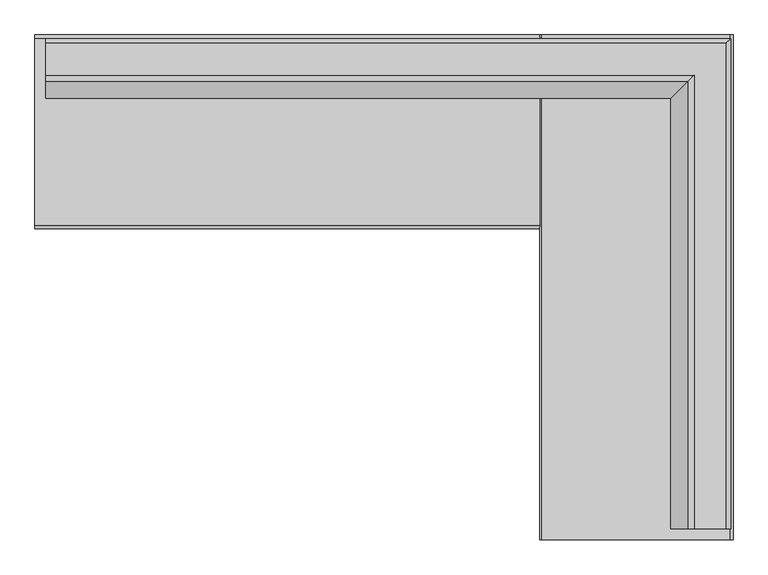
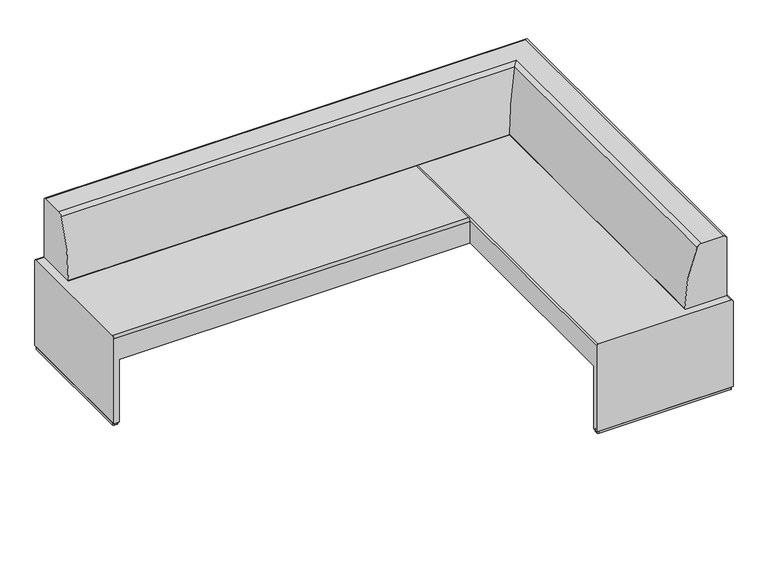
"""IFC4 building model written with IfcOpenShell, lengths in millimetres: furniture geometry, Coalesse_AM_Seating_Bench_Together_RightCorner : 1.5in Back Offset - 69.75D x 96.5W."""

from ifc_helpers import new_model, si_unit, point, frame, frame_2d, origin, origin_with_axes, place, context, project, spatial, polyline, circle_curve, ellipse_curve, trimmed, segment, composite_curve, outline, extrude, source, transform, mapped, element, save
from ifc_brep_helpers import plane_surface, cylinder_surface, advanced_brep


def furniture_5f205269(model_context):
    return source(origin(), model_context, "Body", "SolidModel", [
        advanced_brep(
        [(774.5287475, 3679.1834745, 461.0687949), (764.3687475, 3679.1834745, 471.2287949), (103.5774354, 3679.1834745, 471.2287949), (95.2070699, 3679.1834745, 462.8584293), (95.2070699, 3679.1834745, 12.7976677), (774.5287475, 3679.1834745, 12.7976677), (95.2070699, 5450.8334745, 343.3718099), (95.2070699, 5450.8334745, 462.8584293), (103.5774354, 5450.8334745, 471.2287949), (764.3687475, 5450.8334745, 471.2287949), (774.5287475, 5450.8334745, 461.0687949), (774.5287475, 5450.8334745, 343.3718099), (774.5287475, 3705.1751879, 343.3718099), (432.8174347, 3749.5841192, 343.3718099), (95.2070699, 3705.1751879, 343.3718099), (774.5287475, 3705.1751879, 12.7976677), (95.2070699, 3705.1751879, 12.7976677), (432.8174347, 3749.5841192, 12.7976677)],
        [
            (0, 1, circle_curve(frame((764.3687475, 3679.1834745, 461.0687949), z_axis=(0.0, -1.0, 0.0), x_axis=(-1.0, 0.0, 0.0)), 10.16)),
            (1, 2),
            (2, 3, circle_curve(frame((103.5774354, 3679.1834745, 462.8584293), z_axis=(0.0, -1.0, 0.0), x_axis=(-1.0, 0.0, 0.0)), 8.3703656)),
            (3, 4),
            (4, 5),
            (5, 0),
            (6, 7),
            (7, 8, circle_curve(frame((103.5774354, 5450.8334745, 462.8584293), z_axis=(0.0, 1.0, 0.0), x_axis=(-1.0, 0.0, 0.0)), 8.3703656)),
            (8, 9),
            (9, 10, circle_curve(frame((764.3687475, 5450.8334745, 461.0687949), z_axis=(0.0, 1.0, 0.0), x_axis=(-1.0, 0.0, 0.0)), 10.16)),
            (10, 11),
            (11, 6),
            (11, 12),
            (12, 13),
            (13, 14),
            (14, 6),
            (5, 15),
            (15, 12),
            (10, 0),
            (9, 1),
            (8, 2),
            (7, 3),
            (14, 16),
            (16, 4),
            (17, 15),
            (16, 17),
            (13, 17),
        ],
        [
            plane_surface(frame((733.0421326, 3679.1834745, 343.3718099), z_axis=(0.0, -1.0, 0.0), x_axis=(1.0, 0.0, 0.0))),
            plane_surface(frame((733.0421326, 5450.8334745, 343.3718099), z_axis=(0.0, 1.0, 0.0), x_axis=(-1.0, 0.0, 0.0))),
            plane_surface(frame((95.2070699, 3679.1834745, 343.3718099), z_axis=(0.0, 0.0, -1.0), x_axis=(0.0, 1.0, 0.0))),
            plane_surface(frame((774.5287475, 3679.1834745, 343.3718099), z_axis=(1.0, 0.0, 0.0), x_axis=(0.0, 1.0, 0.0))),
            cylinder_surface(frame((764.3687475, 5450.8334745, 461.0687949), z_axis=(0.0, -1.0, 0.0), x_axis=(-1.0, 0.0, 0.0)), 10.16),
            plane_surface(frame((764.3687475, 3679.1834745, 471.2287949), z_axis=(0.0, 0.0, 1.0), x_axis=(0.0, 1.0, 0.0))),
            cylinder_surface(frame((103.5774354, 5450.8334745, 462.8584293), z_axis=(0.0, -1.0, 0.0), x_axis=(-1.0, 0.0, 0.0)), 8.3703656),
            plane_surface(frame((95.2070699, 3679.1834745, 462.8584293), z_axis=(-1.0, 0.0, 0.0), x_axis=(0.0, 1.0, 0.0))),
            plane_surface(frame((432.8174347, 3749.5841192, 12.7976677), z_axis=(0.0, 0.0, -1.0), x_axis=(0.9914594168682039, 0.13041558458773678, 0.0))),
            plane_surface(frame((432.8174347, 3749.5841192, 343.3718099), z_axis=(-0.13041558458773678, 0.9914594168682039, 0.0), x_axis=(0.0, 0.0, -1.0))),
            plane_surface(frame((774.5287475, 3705.1751879, 343.3718099), z_axis=(0.12887659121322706, 0.991660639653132, 0.0), x_axis=(0.0, 0.0, -1.0))),
        ],
        [
            (0, [[1, 2, 3, 4, 5, 6]]),
            (1, [[7, 8, 9, 10, 11, 12]]),
            (2, [[-12, 13, 14, 15, 16]]),
            (3, [[-6, 17, 18, -13, -11, 19]]),
            (4, [[-1, -19, -10, 20]]),
            (5, [[-2, -20, -9, 21]]),
            (6, [[-3, -21, -8, 22]]),
            (7, [[-4, -22, -7, -16, 23, 24]]),
            (8, [[25, -17, -5, -24, 26]]),
            (9, [[-26, -23, -15, 27]]),
            (10, [[-25, -27, -14, -18]]),
        ],
    ),
        advanced_brep(
        [(-1676.5712525, 4783.2670813, 471.2287949), (-1676.5712525, 5438.3536785, 471.2287949), (-1676.5712525, 5451.0536785, 458.5287949), (-1676.5712525, 5451.0536785, 12.7976677), (-1676.5712525, 4770.5670813, 12.7976677), (-1676.5712525, 4770.5670813, 458.5287949), (95.2070699, 4783.2670813, 471.2287949), (95.2070699, 4770.5670813, 458.5287949), (95.2070699, 4770.5670813, 343.3718099), (95.2070699, 5451.0536785, 343.3718099), (95.2070699, 5451.0536785, 458.5287949), (95.2070699, 5438.3536785, 471.2287949), (-1650.7015245, 5451.0536785, 343.3718099), (-1650.7025858, 5451.0536785, 12.7976677), (-1650.3955542, 4770.5670813, 343.3718099), (-1606.0629721, 5108.4198031, 343.3718099), (-1650.3944726, 4770.5670813, 12.7976677), (-1606.0629721, 5108.4198031, 12.7976677)],
        [
            (0, 1),
            (1, 2, circle_curve(frame((-1676.5712525, 5438.3536785, 458.5287949), z_axis=(-1.0, 0.0, 0.0), x_axis=(0.0, 1.0, 0.0)), 12.7)),
            (2, 3),
            (3, 4),
            (4, 5),
            (5, 0, circle_curve(frame((-1676.5712525, 4783.2670813, 458.5287949), z_axis=(-1.0, 0.0, 0.0), x_axis=(0.0, 1.0, 0.0)), 12.7)),
            (6, 7, circle_curve(frame((95.2070699, 4783.2670813, 458.5287949), z_axis=(1.0, 0.0, 0.0), x_axis=(0.0, 1.0, 0.0)), 12.7)),
            (7, 8),
            (8, 9),
            (9, 10),
            (10, 11, circle_curve(frame((95.2070699, 5438.3536785, 458.5287949), z_axis=(1.0, 0.0, 0.0), x_axis=(0.0, 1.0, 0.0)), 12.7)),
            (11, 6),
            (0, 6),
            (11, 1),
            (10, 2),
            (9, 12),
            (12, 13),
            (13, 3),
            (8, 14),
            (14, 15),
            (15, 12),
            (4, 16),
            (16, 14),
            (7, 5),
            (17, 16),
            (13, 17),
            (15, 17),
        ],
        [
            plane_surface(frame((-1676.5712525, 5450.8334745, 471.2287949), z_axis=(-1.0, 0.0, 0.0), x_axis=(0.0, 1.0, 0.0))),
            plane_surface(frame((95.2070699, 5450.8334745, 471.2287949), z_axis=(1.0, 0.0, 0.0), x_axis=(0.0, -1.0, 0.0))),
            plane_surface(frame((-1676.5712525, 4783.2670813, 471.2287949), z_axis=(0.0, 0.0, 1.0), x_axis=(1.0, 0.0, 0.0))),
            cylinder_surface(frame((95.2070699, 5438.3536785, 458.5287949), z_axis=(-1.0, 0.0, 0.0), x_axis=(0.0, 1.0, 0.0)), 12.7),
            plane_surface(frame((-1676.5712525, 5451.0536785, 458.5287949), z_axis=(0.0, 1.0, 0.0), x_axis=(1.0, 0.0, 0.0))),
            plane_surface(frame((-1676.5712525, 5451.0536785, 343.3718099), z_axis=(0.0, 0.0, -1.0), x_axis=(1.0, 0.0, 0.0))),
            plane_surface(frame((-1676.5712525, 4770.5670813, 343.3718099), z_axis=(0.0, -1.0, 0.0), x_axis=(1.0, 0.0, 0.0))),
            cylinder_surface(frame((95.2070699, 4783.2670813, 458.5287949), z_axis=(-1.0, 0.0, 0.0), x_axis=(0.0, 1.0, 0.0)), 12.7),
            plane_surface(frame((-1650.7025858, 5451.0618248, 12.7976677), z_axis=(0.0, 0.0, -1.0), x_axis=(0.12918886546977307, -0.9916200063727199, 0.0))),
            plane_surface(frame((-1606.0629721, 5108.4198031, 343.3718099), z_axis=(0.9916200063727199, 0.12918886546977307, 0.0), x_axis=(0.0, 0.0, -1.0))),
            plane_surface(frame((-1650.3944726, 4770.5753245, 343.3718099), z_axis=(0.9915004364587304, -0.1301033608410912, 0.0), x_axis=(0.0, 0.0, -1.0))),
        ],
        [
            (0, [[1, 2, 3, 4, 5, 6]]),
            (1, [[7, 8, 9, 10, 11, 12]]),
            (2, [[-1, 13, -12, 14]]),
            (3, [[-2, -14, -11, 15]]),
            (4, [[-3, -15, -10, 16, 17, 18]]),
            (5, [[-9, 19, 20, 21, -16]]),
            (6, [[-5, 22, 23, -19, -8, 24]]),
            (7, [[-6, -24, -7, -13]]),
            (8, [[25, -22, -4, -18, 26]]),
            (9, [[-26, -17, -21, 27]]),
            (10, [[-25, -27, -20, -23]]),
        ],
    ),
        extrude(outline(composite_curve([segment(polyline([(-1606.5189643, 5113.2843855), (-1651.5193515, 4782.1665875)]), True, "CONTINUOUS"), segment(trimmed(circle_curve(frame_2d((-1657.8115092, 4783.0217198)), 6.35), [point((-1651.5193515, 4782.1665875))], [point((-1657.8166959, 4776.6717219))], False, "CARTESIAN"), True, "CONTINUOUS"), segment(polyline([(-1657.8166959, 4776.6717219), (-1670.2739607, 4776.6818969)]), True, "CONTINUOUS"), segment(trimmed(circle_curve(frame_2d((-1670.268774, 4783.0318948)), 6.35), [point((-1670.2739607, 4776.6818969))], [point((-1676.6187719, 4783.0370815))], False, "CARTESIAN"), True, "CONTINUOUS"), segment(polyline([(-1676.6187719, 4783.0370815), (-1676.0832557, 5438.6681616)]), True, "CONTINUOUS"), segment(trimmed(circle_curve(frame_2d((-1669.7332578, 5438.6629749)), 6.35), [point((-1676.0832557, 5438.6681616))], [point((-1669.7280712, 5445.0129728))], False, "CARTESIAN"), True, "CONTINUOUS"), segment(polyline([(-1669.7280712, 5445.0129728), (-1657.2050538, 5445.0027441)]), True, "CONTINUOUS"), segment(trimmed(circle_curve(frame_2d((-1657.2107966, 5437.9717942)), 7.0309522), [point((-1657.2050538, 5445.0027441))], [point((-1650.2423843, 5438.9074858))], False, "CARTESIAN"), True, "CONTINUOUS"), segment(polyline([(-1650.2423843, 5438.9074858), (-1606.5189643, 5113.2843855)]), True, "CONTINUOUS")], self_intersect=False)), origin_with_axes(), (0.0, 0.0, 1.0), 12.7976677),
        extrude(outline(composite_curve([segment(polyline([(437.4499039, 5381.2236386), (106.2954602, 5425.9535555)]), True, "CONTINUOUS"), segment(trimmed(circle_curve(frame_2d((107.1454529, 5432.2464096)), 6.35), [point((106.2954602, 5425.9535555))], [point((100.7954529, 5432.2464096))], False, "CARTESIAN"), True, "CONTINUOUS"), segment(polyline([(100.7954529, 5432.2464096), (100.7954529, 5444.7036785)]), True, "CONTINUOUS"), segment(trimmed(circle_curve(frame_2d((107.1454529, 5444.7036785)), 6.35), [point((100.7954529, 5444.7036785))], [point((107.1454529, 5451.0536785))], False, "CARTESIAN"), True, "CONTINUOUS"), segment(polyline([(107.1454529, 5451.0536785), (762.7767517, 5451.0536785)]), True, "CONTINUOUS"), segment(trimmed(circle_curve(frame_2d((762.7767517, 5444.7036785)), 6.35), [point((762.7767517, 5451.0536785))], [point((769.1267517, 5444.7036785))], False, "CARTESIAN"), True, "CONTINUOUS"), segment(polyline([(769.1267517, 5444.7036785), (769.1267517, 5432.180657)]), True, "CONTINUOUS"), segment(trimmed(circle_curve(frame_2d((762.0957995, 5432.180657)), 7.0309522), [point((769.1267517, 5432.180657))], [point((763.0371826, 5425.2130112))], False, "CARTESIAN"), True, "CONTINUOUS"), segment(polyline([(763.0371826, 5425.2130112), (437.4499039, 5381.2236386)]), True, "CONTINUOUS")], self_intersect=False)), origin_with_axes(), (0.0, 0.0, 1.0), 12.7976677),
        extrude(outline(composite_curve([segment(polyline([(437.4499039, 3749.8966001), (763.0371826, 3705.9072274)]), True, "CONTINUOUS"), segment(trimmed(circle_curve(frame_2d((762.0957995, 3698.9395817)), 7.0309522), [point((763.0371826, 3705.9072274))], [point((769.1267517, 3698.9395817))], False, "CARTESIAN"), True, "CONTINUOUS"), segment(polyline([(769.1267517, 3698.9395817), (769.1267517, 3686.4165601)]), True, "CONTINUOUS"), segment(trimmed(circle_curve(frame_2d((762.7767517, 3686.4165601)), 6.35), [point((769.1267517, 3686.4165601))], [point((762.7767517, 3680.0665601))], False, "CARTESIAN"), True, "CONTINUOUS"), segment(polyline([(762.7767517, 3680.0665601), (107.1454529, 3680.0665601)]), True, "CONTINUOUS"), segment(trimmed(circle_curve(frame_2d((107.1454529, 3686.4165601)), 6.35), [point((107.1454529, 3680.0665601))], [point((100.7954529, 3686.4165601))], False, "CARTESIAN"), True, "CONTINUOUS"), segment(polyline([(100.7954529, 3686.4165601), (100.7954529, 3698.8738291)]), True, "CONTINUOUS"), segment(trimmed(circle_curve(frame_2d((107.1454529, 3698.8738291)), 6.35), [point((100.7954529, 3698.8738291))], [point((106.2954602, 3705.1666831))], False, "CARTESIAN"), True, "CONTINUOUS"), segment(polyline([(106.2954602, 3705.1666831), (437.4499039, 3749.8966001)]), True, "CONTINUOUS")], self_intersect=False)), origin_with_axes(), (0.0, 0.0, 1.0), 12.7976677),
        extrude(outline(polyline([(432.8174347, 5380.6530339), (95.2070699, 5425.0619651), (95.2070699, 5451.0536785), (774.6302917, 5451.0536785), (774.6302917, 5425.0751618), (432.8174347, 5380.6530339)])), frame((0.0, 0.0, 12.7976677), z_axis=(0.0, 0.0, 1.0), x_axis=(1.0, 0.0, 0.0)), (0.0, 0.0, 1.0), 330.5741422),
        advanced_brep(
        [(637.9650651, 3717.2834745, 789.6908243), (617.0761552, 3717.2834745, 775.9296487), (556.0897813, 3717.2834745, 477.5628851), (562.4397614, 3717.2834745, 471.2287949), (765.057783, 3717.2834745, 471.2287949), (765.819783, 3717.2834745, 471.9907949), (765.819783, 3717.2834745, 774.0501793), (750.179138, 3717.2834745, 789.6908243), (637.9650651, 5309.7765091, 789.6908243), (617.0761552, 5288.8875992, 775.9296487), (556.0897813, 5227.9012254, 477.5628851), (562.4397614, 5234.2512054, 471.2287949), (-1638.4712525, 5234.2512054, 471.2287949), (-1638.4712525, 5436.869227, 471.2287949), (765.057783, 5436.869227, 471.2287949), (765.819783, 5437.631227, 471.9907949), (765.819783, 5437.631227, 774.0501793), (750.179138, 5421.990582, 789.6908243), (-1638.4712525, 5421.990582, 789.6908243), (-1638.4712525, 5309.7765091, 789.6908243), (-1638.4712525, 5437.631227, 774.0501793), (-1638.4712525, 5437.631227, 471.9907949), (-1638.4712525, 5227.9012254, 477.5628851), (-1638.4712525, 5288.8875992, 775.9296487)],
        [
            (0, 1, circle_curve(frame((637.9650651, 3717.2834745, 766.9559749), z_axis=(0.0, -1.0, 0.0), x_axis=(-1.0, 0.0, 0.0)), 22.7348495)),
            (1, 2, circle_curve(frame((1307.2331615, 3717.2834745, 479.4448666), z_axis=(0.0, -1.0, 0.0), x_axis=(-1.0, 0.0, 0.0)), 751.1457378)),
            (2, 3, circle_curve(frame((562.4397614, 3717.2834745, 477.5787949), z_axis=(0.0, -1.0, 0.0), x_axis=(-1.0, 0.0, 0.0)), 6.35)),
            (3, 4),
            (4, 5, circle_curve(frame((765.057783, 3717.2834745, 471.9907949), z_axis=(0.0, -1.0, 0.0), x_axis=(-1.0, 0.0, 0.0)), 0.762)),
            (5, 6),
            (6, 7, circle_curve(frame((750.179138, 3717.2834745, 774.0501793), z_axis=(0.0, -1.0, 0.0), x_axis=(-1.0, 0.0, 0.0)), 15.6406451)),
            (7, 0),
            (0, 8),
            (8, 9, ellipse_curve(frame((637.9650651, 5309.7765091, 766.9559749), z_axis=(0.7071067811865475, -0.7071067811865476, 0.0), x_axis=(-0.7071067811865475, -0.7071067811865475, 0.0)), 32.1519324, 22.7348495)),
            (9, 1),
            (9, 10, ellipse_curve(frame((1307.2331615, 5979.0446055, 479.4448666), z_axis=(0.7071067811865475, -0.7071067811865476, 0.0), x_axis=(-0.7071067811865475, -0.7071067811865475, 0.0)), 1062.2804897, 751.1457378)),
            (10, 2),
            (10, 11, ellipse_curve(frame((562.4397614, 5234.2512054, 477.5787949), z_axis=(0.7071067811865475, -0.7071067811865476, 0.0), x_axis=(-0.7071067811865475, -0.7071067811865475, 0.0)), 8.9802561, 6.35)),
            (11, 3),
            (11, 12),
            (12, 13),
            (13, 14),
            (14, 4),
            (14, 15, ellipse_curve(frame((765.057783, 5436.869227, 471.9907949), z_axis=(0.7071067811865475, -0.7071067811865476, 0.0), x_axis=(-0.7071067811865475, -0.7071067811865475, 0.0)), 1.0776307, 0.762)),
            (15, 5),
            (15, 16),
            (16, 6),
            (16, 17, ellipse_curve(frame((750.179138, 5421.990582, 774.0501793), z_axis=(0.7071067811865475, -0.7071067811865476, 0.0), x_axis=(-0.7071067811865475, -0.7071067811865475, 0.0)), 22.1192124, 15.6406451)),
            (17, 7),
            (17, 18),
            (18, 19),
            (19, 8),
            (18, 20, circle_curve(frame((-1638.4712525, 5421.990582, 774.0501793), z_axis=(-1.0, 0.0, 0.0), x_axis=(0.0, -1.0, 0.0)), 15.6406451)),
            (20, 21),
            (21, 13, circle_curve(frame((-1638.4712525, 5436.869227, 471.9907949), z_axis=(-1.0, 0.0, 0.0), x_axis=(0.0, -1.0, 0.0)), 0.762)),
            (12, 22, circle_curve(frame((-1638.4712525, 5234.2512054, 477.5787949), z_axis=(-1.0, 0.0, 0.0), x_axis=(0.0, -1.0, 0.0)), 6.35)),
            (22, 23, circle_curve(frame((-1638.4712525, 5979.0446055, 479.4448666), z_axis=(-1.0, 0.0, 0.0), x_axis=(0.0, -1.0, 0.0)), 751.1457378)),
            (23, 19, circle_curve(frame((-1638.4712525, 5309.7765091, 766.9559749), z_axis=(-1.0, 0.0, 0.0), x_axis=(0.0, -1.0, 0.0)), 22.7348495)),
            (23, 9),
            (22, 10),
            (21, 15),
            (20, 16),
        ],
        [
            plane_surface(frame((555.2553454, 3717.2834745, 0.0), z_axis=(0.0, -1.0, 0.0), x_axis=(0.0, 0.0, 1.0))),
            cylinder_surface(frame((637.9650651, 3717.2834745, 766.9559749), z_axis=(0.0, -1.0, 0.0), x_axis=(-1.0, 0.0, 0.0)), 22.7348495),
            cylinder_surface(frame((1307.2331615, 3717.2834745, 479.4448666), z_axis=(0.0, -1.0, 0.0), x_axis=(-1.0, 0.0, 0.0)), 751.1457378),
            cylinder_surface(frame((562.4397614, 3717.2834745, 477.5787949), z_axis=(0.0, -1.0, 0.0), x_axis=(-1.0, 0.0, 0.0)), 6.35),
            plane_surface(frame((562.4397614, 3717.2834745, 471.2287949), z_axis=(0.0, 0.0, -1.0), x_axis=(0.0, 1.0, 0.0))),
            cylinder_surface(frame((765.057783, 3717.2834745, 471.9907949), z_axis=(0.0, -1.0, 0.0), x_axis=(-1.0, 0.0, 0.0)), 0.762),
            plane_surface(frame((765.819783, 3717.2834745, 471.9907949), z_axis=(1.0, 0.0, 0.0), x_axis=(0.0, 1.0, 0.0))),
            cylinder_surface(frame((750.179138, 3717.2834745, 774.0501793), z_axis=(0.0, -1.0, 0.0), x_axis=(-1.0, 0.0, 0.0)), 15.6406451),
            plane_surface(frame((750.179138, 3717.2834745, 789.6908243), z_axis=(0.0, 0.0, 1.0), x_axis=(0.0, 1.0, 0.0))),
            plane_surface(frame((-1638.4712525, 5227.0667894, 0.0), z_axis=(-1.0, 0.0, 0.0), x_axis=(0.0, 0.0, 1.0))),
            cylinder_surface(frame((555.2553454, 5309.7765091, 766.9559749), z_axis=(1.0, 0.0, 0.0), x_axis=(0.0, -1.0, 0.0)), 22.7348495),
            cylinder_surface(frame((555.2553454, 5979.0446055, 479.4448666), z_axis=(1.0, 0.0, 0.0), x_axis=(0.0, -1.0, 0.0)), 751.1457378),
            cylinder_surface(frame((555.2553454, 5234.2512054, 477.5787949), z_axis=(1.0, 0.0, 0.0), x_axis=(0.0, -1.0, 0.0)), 6.35),
            cylinder_surface(frame((555.2553454, 5436.869227, 471.9907949), z_axis=(1.0, 0.0, 0.0), x_axis=(0.0, -1.0, 0.0)), 0.762),
            plane_surface(frame((765.819783, 5437.631227, 471.9907949), z_axis=(0.0, 1.0, 0.0), x_axis=(-1.0, 0.0, 0.0))),
            cylinder_surface(frame((555.2553454, 5421.990582, 774.0501793), z_axis=(1.0, 0.0, 0.0), x_axis=(0.0, -1.0, 0.0)), 15.6406451),
        ],
        [
            (0, [[1, 2, 3, 4, 5, 6, 7, 8]]),
            (1, [[-1, 9, 10, 11]]),
            (2, [[-2, -11, 12, 13]]),
            (3, [[-3, -13, 14, 15]]),
            (4, [[-4, -15, 16, 17, 18, 19]]),
            (5, [[-5, -19, 20, 21]]),
            (6, [[-6, -21, 22, 23]]),
            (7, [[-7, -23, 24, 25]]),
            (8, [[-8, -25, 26, 27, 28, -9]]),
            (9, [[-27, 29, 30, 31, -17, 32, 33, 34]]),
            (10, [[-10, -28, -34, 35]]),
            (11, [[-12, -35, -33, 36]]),
            (12, [[-14, -36, -32, -16]]),
            (13, [[-20, -18, -31, 37]]),
            (14, [[-22, -37, -30, 38]]),
            (15, [[-24, -38, -29, -26]]),
        ],
    ),
    ])


if __name__ == "__main__":
    model = new_model("IFC4")
    model_context = context("Model", 3, world=origin())
    ifc_project = project(units=[si_unit("LENGTHUNIT", "METRE", prefix="MILLI")], contexts=[model_context])
    site = spatial("IfcSite", under=ifc_project)
    building = spatial("IfcBuilding", under=site)
    placement = place(None, origin())
    furniture_shape = furniture_5f205269(model_context)
    element("IfcFurniture", 1, ObjectType="Coalesse_AM_Seating_Bench_Together_RightCorner : 1.5in Back Offset - 69.75D x 96.5W", at=placement, inside=building, context=model_context, shape_type="MappedRepresentation", body=[
        mapped(furniture_shape, transform((0.0, 0.0, 0.0), x_axis=(1.0, 0.0, 0.0), y_axis=(0.0, 1.0, 0.0), z_axis=(0.0, 0.0, 1.0))),
    ])
    save(model, "model.ifc")
